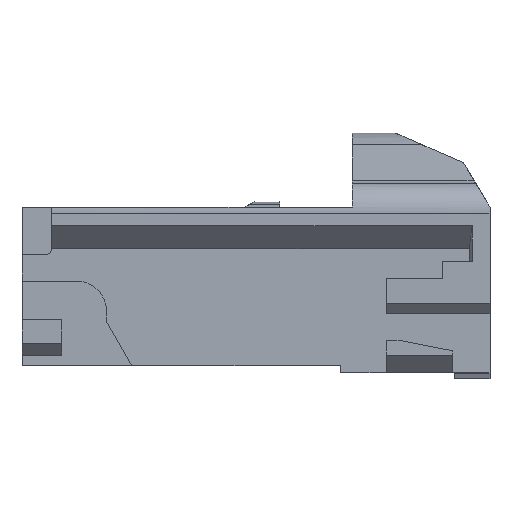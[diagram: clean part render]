
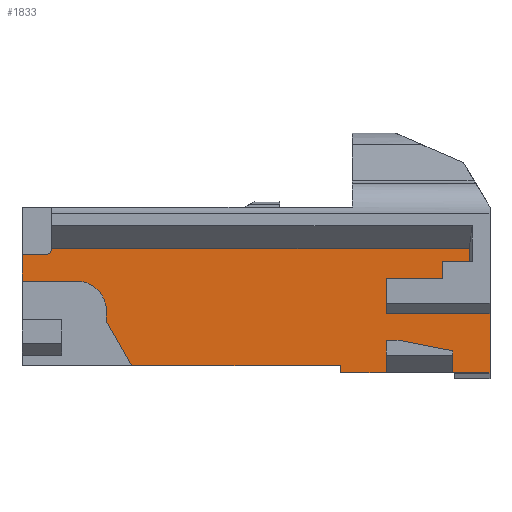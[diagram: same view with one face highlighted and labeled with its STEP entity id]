
A CAD part, front view. The second image highlights one B-rep face of the part: STEP entity #1833.
In plain terms, the highlighted planar face has unit normal (0, -1, 0).
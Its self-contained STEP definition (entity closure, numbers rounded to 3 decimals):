
#1666=AXIS2_PLACEMENT_3D('Plane Axis2P3D',#1663,#1664,#1665) ;
#1755=AXIS2_PLACEMENT_3D('Circle Axis2P3D',#1753,#1754,$) ;
#1783=AXIS2_PLACEMENT_3D('Circle Axis2P3D',#1781,#1782,$) ;
#254=CARTESIAN_POINT('Vertex',(15.8,-10.05,-0.25)) ;
#257=CARTESIAN_POINT('Line Origine',(15.175,-10.05,-0.25)) ;
#261=CARTESIAN_POINT('Vertex',(14.55,-10.05,-0.25)) ;
#282=CARTESIAN_POINT('Vertex',(12.3,-10.05,-0.25)) ;
#285=CARTESIAN_POINT('Line Origine',(11.525,-10.05,-0.25)) ;
#289=CARTESIAN_POINT('Vertex',(10.75,-10.05,-0.25)) ;
#541=CARTESIAN_POINT('Vertex',(15.8,-10.05,1.75)) ;
#544=CARTESIAN_POINT('Line Origine',(15.8,-10.05,0.75)) ;
#1648=CARTESIAN_POINT('Vertex',(10.75,-10.05,0.)) ;
#1651=CARTESIAN_POINT('Line Origine',(10.75,-10.05,-0.125)) ;
#1663=CARTESIAN_POINT('Axis2P3D Location',(0.,-10.05,3.95)) ;
#1668=CARTESIAN_POINT('Line Origine',(12.3,-10.05,0.21)) ;
#1672=CARTESIAN_POINT('Vertex',(12.3,-10.05,0.669)) ;
#1675=CARTESIAN_POINT('Line Origine',(12.507,-10.05,0.669)) ;
#1679=CARTESIAN_POINT('Vertex',(12.713,-10.05,0.669)) ;
#1683=CARTESIAN_POINT('Control Point',(12.713,-10.05,0.669)) ;
#1684=CARTESIAN_POINT('Control Point',(12.721,-10.05,0.669)) ;
#1685=CARTESIAN_POINT('Control Point',(12.728,-10.05,0.669)) ;
#1686=CARTESIAN_POINT('Control Point',(12.736,-10.05,0.668)) ;
#1687=CARTESIAN_POINT('Control Point',(12.743,-10.05,0.667)) ;
#1688=CARTESIAN_POINT('Control Point',(12.75,-10.05,0.666)) ;
#1689=CARTESIAN_POINT('Vertex',(12.75,-10.05,0.666)) ;
#1692=CARTESIAN_POINT('Line Origine',(13.65,-10.05,0.491)) ;
#1696=CARTESIAN_POINT('Vertex',(14.55,-10.05,0.316)) ;
#1699=CARTESIAN_POINT('Line Origine',(14.55,-10.05,0.033)) ;
#1704=CARTESIAN_POINT('Line Origine',(14.05,-10.05,1.75)) ;
#1708=CARTESIAN_POINT('Vertex',(12.3,-10.05,1.75)) ;
#1711=CARTESIAN_POINT('Line Origine',(12.3,-10.05,2.246)) ;
#1715=CARTESIAN_POINT('Vertex',(12.3,-10.05,2.742)) ;
#1718=CARTESIAN_POINT('Line Origine',(13.25,-10.05,2.742)) ;
#1722=CARTESIAN_POINT('Vertex',(14.2,-10.05,2.742)) ;
#1725=CARTESIAN_POINT('Line Origine',(14.2,-10.05,3.126)) ;
#1729=CARTESIAN_POINT('Vertex',(14.2,-10.05,3.51)) ;
#1732=CARTESIAN_POINT('Line Origine',(14.65,-10.05,3.51)) ;
#1736=CARTESIAN_POINT('Vertex',(15.1,-10.05,3.51)) ;
#1739=CARTESIAN_POINT('Line Origine',(15.1,-10.05,3.73)) ;
#1743=CARTESIAN_POINT('Vertex',(15.1,-10.05,3.95)) ;
#1746=CARTESIAN_POINT('Line Origine',(8.05,-10.05,3.95)) ;
#1750=CARTESIAN_POINT('Vertex',(1.,-10.05,3.95)) ;
#1753=CARTESIAN_POINT('Axis2P3D Location',(0.8,-10.05,3.95)) ;
#1757=CARTESIAN_POINT('Vertex',(0.8,-10.05,3.75)) ;
#1760=CARTESIAN_POINT('Line Origine',(0.4,-10.05,3.75)) ;
#1764=CARTESIAN_POINT('Vertex',(0.,-10.05,3.75)) ;
#1767=CARTESIAN_POINT('Line Origine',(0.,-10.05,3.3)) ;
#1771=CARTESIAN_POINT('Vertex',(0.,-10.05,2.85)) ;
#1774=CARTESIAN_POINT('Line Origine',(0.925,-10.05,2.85)) ;
#1778=CARTESIAN_POINT('Vertex',(1.85,-10.05,2.85)) ;
#1781=CARTESIAN_POINT('Axis2P3D Location',(1.85,-10.05,1.85)) ;
#1785=CARTESIAN_POINT('Vertex',(2.85,-10.05,1.85)) ;
#1788=CARTESIAN_POINT('Line Origine',(2.85,-10.05,1.675)) ;
#1792=CARTESIAN_POINT('Vertex',(2.85,-10.05,1.5)) ;
#1795=CARTESIAN_POINT('Line Origine',(3.275,-10.05,0.75)) ;
#1799=CARTESIAN_POINT('Vertex',(3.7,-10.05,0.)) ;
#1802=CARTESIAN_POINT('Line Origine',(7.225,-10.05,0.)) ;
#258=DIRECTION('Vector Direction',(1.,0.,0.)) ;
#286=DIRECTION('Vector Direction',(1.,0.,0.)) ;
#545=DIRECTION('Vector Direction',(0.,0.,1.)) ;
#1652=DIRECTION('Vector Direction',(0.,0.,1.)) ;
#1664=DIRECTION('Axis2P3D Direction',(0.,1.,0.)) ;
#1665=DIRECTION('Axis2P3D XDirection',(0.,0.,-1.)) ;
#1669=DIRECTION('Vector Direction',(0.,0.,-1.)) ;
#1676=DIRECTION('Vector Direction',(-1.,0.,0.)) ;
#1693=DIRECTION('Vector Direction',(-0.982,0.,0.191)) ;
#1700=DIRECTION('Vector Direction',(0.,0.,1.)) ;
#1705=DIRECTION('Vector Direction',(1.,0.,0.)) ;
#1712=DIRECTION('Vector Direction',(0.,0.,1.)) ;
#1719=DIRECTION('Vector Direction',(1.,0.,0.)) ;
#1726=DIRECTION('Vector Direction',(0.,0.,1.)) ;
#1733=DIRECTION('Vector Direction',(-1.,0.,0.)) ;
#1740=DIRECTION('Vector Direction',(0.,0.,-1.)) ;
#1747=DIRECTION('Vector Direction',(1.,0.,0.)) ;
#1754=DIRECTION('Axis2P3D Direction',(0.,1.,0.)) ;
#1761=DIRECTION('Vector Direction',(1.,0.,0.)) ;
#1768=DIRECTION('Vector Direction',(0.,0.,1.)) ;
#1775=DIRECTION('Vector Direction',(1.,0.,0.)) ;
#1782=DIRECTION('Axis2P3D Direction',(0.,1.,0.)) ;
#1789=DIRECTION('Vector Direction',(0.,0.,-1.)) ;
#1796=DIRECTION('Vector Direction',(0.493,0.,-0.87)) ;
#1803=DIRECTION('Vector Direction',(1.,0.,0.)) ;
#259=VECTOR('Line Direction',#258,1.) ;
#287=VECTOR('Line Direction',#286,1.) ;
#546=VECTOR('Line Direction',#545,1.) ;
#1653=VECTOR('Line Direction',#1652,1.) ;
#1670=VECTOR('Line Direction',#1669,1.) ;
#1677=VECTOR('Line Direction',#1676,1.) ;
#1694=VECTOR('Line Direction',#1693,1.) ;
#1701=VECTOR('Line Direction',#1700,1.) ;
#1706=VECTOR('Line Direction',#1705,1.) ;
#1713=VECTOR('Line Direction',#1712,1.) ;
#1720=VECTOR('Line Direction',#1719,1.) ;
#1727=VECTOR('Line Direction',#1726,1.) ;
#1734=VECTOR('Line Direction',#1733,1.) ;
#1741=VECTOR('Line Direction',#1740,1.) ;
#1748=VECTOR('Line Direction',#1747,1.) ;
#1762=VECTOR('Line Direction',#1761,1.) ;
#1769=VECTOR('Line Direction',#1768,1.) ;
#1776=VECTOR('Line Direction',#1775,1.) ;
#1790=VECTOR('Line Direction',#1789,1.) ;
#1797=VECTOR('Line Direction',#1796,1.) ;
#1804=VECTOR('Line Direction',#1803,1.) ;
#1808=ORIENTED_EDGE('',*,*,#1655,.F.) ;
#1809=ORIENTED_EDGE('',*,*,#291,.T.) ;
#1810=ORIENTED_EDGE('',*,*,#1674,.F.) ;
#1811=ORIENTED_EDGE('',*,*,#1681,.F.) ;
#1812=ORIENTED_EDGE('',*,*,#1691,.T.) ;
#1813=ORIENTED_EDGE('',*,*,#1698,.F.) ;
#1814=ORIENTED_EDGE('',*,*,#1703,.F.) ;
#1815=ORIENTED_EDGE('',*,*,#263,.T.) ;
#1816=ORIENTED_EDGE('',*,*,#548,.T.) ;
#1817=ORIENTED_EDGE('',*,*,#1710,.F.) ;
#1818=ORIENTED_EDGE('',*,*,#1717,.T.) ;
#1819=ORIENTED_EDGE('',*,*,#1724,.T.) ;
#1820=ORIENTED_EDGE('',*,*,#1731,.T.) ;
#1821=ORIENTED_EDGE('',*,*,#1738,.F.) ;
#1822=ORIENTED_EDGE('',*,*,#1745,.F.) ;
#1823=ORIENTED_EDGE('',*,*,#1752,.F.) ;
#1824=ORIENTED_EDGE('',*,*,#1759,.F.) ;
#1825=ORIENTED_EDGE('',*,*,#1766,.F.) ;
#1826=ORIENTED_EDGE('',*,*,#1773,.F.) ;
#1827=ORIENTED_EDGE('',*,*,#1780,.T.) ;
#1828=ORIENTED_EDGE('',*,*,#1787,.T.) ;
#1829=ORIENTED_EDGE('',*,*,#1794,.T.) ;
#1830=ORIENTED_EDGE('',*,*,#1801,.T.) ;
#1831=ORIENTED_EDGE('',*,*,#1806,.T.) ;
#1833=ADVANCED_FACE('\X2\7C216613\X0\3D',(#1832),#1667,.F.) ;
#1682=B_SPLINE_CURVE_WITH_KNOTS('',5,(#1683,#1684,#1685,#1686,#1687,#1688),.UNSPECIFIED.,.F.,.U.,(6,6),(0.,0.052),.UNSPECIFIED.) ;
#1756=CIRCLE('generated circle',#1755,0.2) ;
#1784=CIRCLE('generated circle',#1783,1.) ;
#263=EDGE_CURVE('',#262,#255,#260,.T.) ;
#291=EDGE_CURVE('',#290,#283,#288,.T.) ;
#548=EDGE_CURVE('',#255,#542,#547,.T.) ;
#1655=EDGE_CURVE('',#290,#1649,#1654,.T.) ;
#1674=EDGE_CURVE('',#1673,#283,#1671,.T.) ;
#1681=EDGE_CURVE('',#1680,#1673,#1678,.T.) ;
#1691=EDGE_CURVE('',#1680,#1690,#1682,.T.) ;
#1698=EDGE_CURVE('',#1697,#1690,#1695,.T.) ;
#1703=EDGE_CURVE('',#262,#1697,#1702,.T.) ;
#1710=EDGE_CURVE('',#1709,#542,#1707,.T.) ;
#1717=EDGE_CURVE('',#1709,#1716,#1714,.T.) ;
#1724=EDGE_CURVE('',#1716,#1723,#1721,.T.) ;
#1731=EDGE_CURVE('',#1723,#1730,#1728,.T.) ;
#1738=EDGE_CURVE('',#1737,#1730,#1735,.T.) ;
#1745=EDGE_CURVE('',#1744,#1737,#1742,.T.) ;
#1752=EDGE_CURVE('',#1751,#1744,#1749,.T.) ;
#1759=EDGE_CURVE('',#1758,#1751,#1756,.F.) ;
#1766=EDGE_CURVE('',#1765,#1758,#1763,.T.) ;
#1773=EDGE_CURVE('',#1772,#1765,#1770,.T.) ;
#1780=EDGE_CURVE('',#1772,#1779,#1777,.T.) ;
#1787=EDGE_CURVE('',#1779,#1786,#1784,.T.) ;
#1794=EDGE_CURVE('',#1786,#1793,#1791,.T.) ;
#1801=EDGE_CURVE('',#1793,#1800,#1798,.T.) ;
#1806=EDGE_CURVE('',#1800,#1649,#1805,.T.) ;
#1807=EDGE_LOOP('',(#1808,#1809,#1810,#1811,#1812,#1813,#1814,#1815,#1816,#1817,#1818,#1819,#1820,#1821,#1822,#1823,#1824,#1825,#1826,#1827,#1828,#1829,#1830,#1831)) ;
#1832=FACE_OUTER_BOUND('',#1807,.T.) ;
#260=LINE('Line',#257,#259) ;
#288=LINE('Line',#285,#287) ;
#547=LINE('Line',#544,#546) ;
#1654=LINE('Line',#1651,#1653) ;
#1671=LINE('Line',#1668,#1670) ;
#1678=LINE('Line',#1675,#1677) ;
#1695=LINE('Line',#1692,#1694) ;
#1702=LINE('Line',#1699,#1701) ;
#1707=LINE('Line',#1704,#1706) ;
#1714=LINE('Line',#1711,#1713) ;
#1721=LINE('Line',#1718,#1720) ;
#1728=LINE('Line',#1725,#1727) ;
#1735=LINE('Line',#1732,#1734) ;
#1742=LINE('Line',#1739,#1741) ;
#1749=LINE('Line',#1746,#1748) ;
#1763=LINE('Line',#1760,#1762) ;
#1770=LINE('Line',#1767,#1769) ;
#1777=LINE('Line',#1774,#1776) ;
#1791=LINE('Line',#1788,#1790) ;
#1798=LINE('Line',#1795,#1797) ;
#1805=LINE('Line',#1802,#1804) ;
#1667=PLANE('',#1666) ;
#255=VERTEX_POINT('',#254) ;
#262=VERTEX_POINT('',#261) ;
#283=VERTEX_POINT('',#282) ;
#290=VERTEX_POINT('',#289) ;
#542=VERTEX_POINT('',#541) ;
#1649=VERTEX_POINT('',#1648) ;
#1673=VERTEX_POINT('',#1672) ;
#1680=VERTEX_POINT('',#1679) ;
#1690=VERTEX_POINT('',#1689) ;
#1697=VERTEX_POINT('',#1696) ;
#1709=VERTEX_POINT('',#1708) ;
#1716=VERTEX_POINT('',#1715) ;
#1723=VERTEX_POINT('',#1722) ;
#1730=VERTEX_POINT('',#1729) ;
#1737=VERTEX_POINT('',#1736) ;
#1744=VERTEX_POINT('',#1743) ;
#1751=VERTEX_POINT('',#1750) ;
#1758=VERTEX_POINT('',#1757) ;
#1765=VERTEX_POINT('',#1764) ;
#1772=VERTEX_POINT('',#1771) ;
#1779=VERTEX_POINT('',#1778) ;
#1786=VERTEX_POINT('',#1785) ;
#1793=VERTEX_POINT('',#1792) ;
#1800=VERTEX_POINT('',#1799) ;
